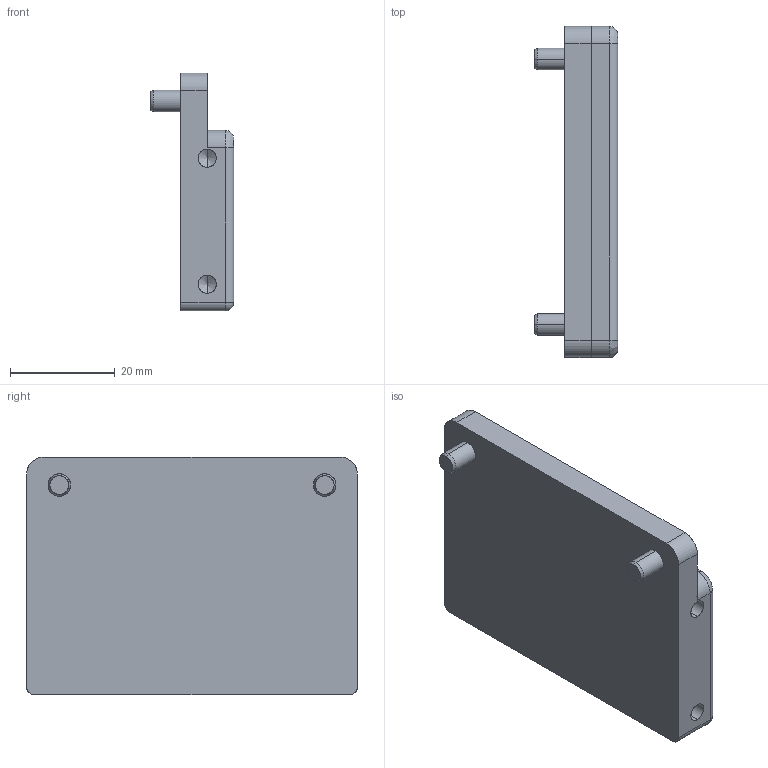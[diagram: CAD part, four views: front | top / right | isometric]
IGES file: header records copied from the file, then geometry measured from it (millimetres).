
Start section: SolidWorks IGES file using analytic representation for surfaces
Global section: file name: C:\Users\Mike\Dropbox\Mechanical Engr\Development Projects (P)\Accessories\Customer Model Development\1401-RM-2, part 3 of 3.IGS; native system: SolidWorks 2014; preprocessor: SolidWorks 2014; author: Mike; date: 150929.211919; units: inch
Bounding box: 15.99 x 63.35 x 45.47 mm (x, y, z)
Surface area: 9727.9 mm2 (no closed solid volume)
Topology: 0 solids, 0 shells, 260 faces, 2799 edges, 2785 vertices
Faces by surface type: bspline 174, revolution 86
